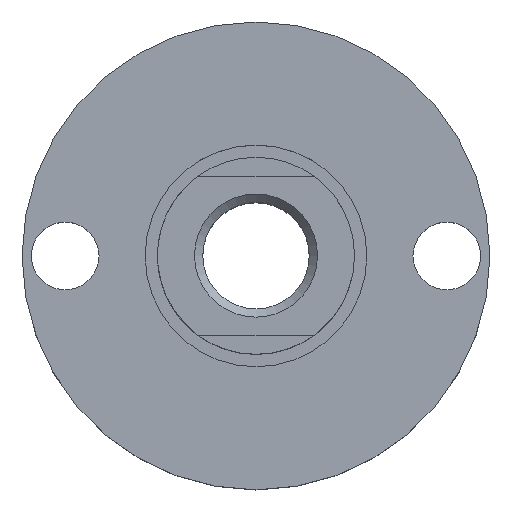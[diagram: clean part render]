
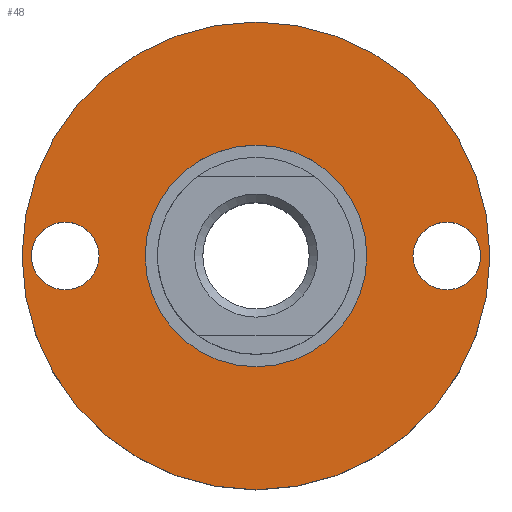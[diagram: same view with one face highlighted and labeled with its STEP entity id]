
A CAD part, top view. The second image highlights one B-rep face of the part: STEP entity #48.
In plain terms, the highlighted planar face has unit normal (0, 0, 1).
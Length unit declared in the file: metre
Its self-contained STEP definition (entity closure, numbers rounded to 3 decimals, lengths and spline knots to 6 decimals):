
#48 = ADVANCED_FACE( '', ( #102, #103, #104, #105 ), #106, .F. );
#102 = FACE_BOUND( '', #173, .T. );
#103 = FACE_BOUND( '', #174, .T. );
#104 = FACE_OUTER_BOUND( '', #175, .T. );
#105 = FACE_BOUND( '', #176, .T. );
#106 = PLANE( '', #177 );
#173 = EDGE_LOOP( '', ( #258 ) );
#174 = EDGE_LOOP( '', ( #259 ) );
#175 = EDGE_LOOP( '', ( #260 ) );
#176 = EDGE_LOOP( '', ( #261 ) );
#177 = AXIS2_PLACEMENT_3D( '', #262, #263, #264 );
#258 = ORIENTED_EDGE( '', *, *, #355, .F. );
#259 = ORIENTED_EDGE( '', *, *, #356, .F. );
#260 = ORIENTED_EDGE( '', *, *, #357, .T. );
#261 = ORIENTED_EDGE( '', *, *, #358, .T. );
#262 = CARTESIAN_POINT( '', ( 0., 0., 0.008 ) );
#263 = DIRECTION( '', ( 0., 0., -1. ) );
#264 = DIRECTION( '', ( 1., 0., 0. ) );
#355 = EDGE_CURVE( '', #405, #405, #406, .T. );
#356 = EDGE_CURVE( '', #407, #407, #408, .T. );
#357 = EDGE_CURVE( '', #409, #409, #410, .T. );
#358 = EDGE_CURVE( '', #411, #411, #412, .F. );
#405 = VERTEX_POINT( '', #474 );
#406 = CIRCLE( '', #475, 0.00275 );
#407 = VERTEX_POINT( '', #476 );
#408 = CIRCLE( '', #477, 0.00275 );
#409 = VERTEX_POINT( '', #478 );
#410 = CIRCLE( '', #479, 0.019 );
#411 = VERTEX_POINT( '', #480 );
#412 = CIRCLE( '', #481, 0.009 );
#474 = CARTESIAN_POINT( '', ( -0.01825, 0., 0.008 ) );
#475 = AXIS2_PLACEMENT_3D( '', #533, #534, #535 );
#476 = CARTESIAN_POINT( '', ( 0.01825, 0., 0.008 ) );
#477 = AXIS2_PLACEMENT_3D( '', #536, #537, #538 );
#478 = CARTESIAN_POINT( '', ( 0.019, 0., 0.008 ) );
#479 = AXIS2_PLACEMENT_3D( '', #539, #540, #541 );
#480 = CARTESIAN_POINT( '', ( 0.009, 0., 0.008 ) );
#481 = AXIS2_PLACEMENT_3D( '', #542, #543, #544 );
#533 = CARTESIAN_POINT( '', ( -0.0155, 0., 0.008 ) );
#534 = DIRECTION( '', ( 0., 0., 1. ) );
#535 = DIRECTION( '', ( -1., 0., 0. ) );
#536 = CARTESIAN_POINT( '', ( 0.0155, 0., 0.008 ) );
#537 = DIRECTION( '', ( 0., 0., 1. ) );
#538 = DIRECTION( '', ( 1., 0., 0. ) );
#539 = CARTESIAN_POINT( '', ( 0., 0., 0.008 ) );
#540 = DIRECTION( '', ( 0., 0., 1. ) );
#541 = DIRECTION( '', ( 1., 0., 0. ) );
#542 = CARTESIAN_POINT( '', ( 0., 0., 0.008 ) );
#543 = DIRECTION( '', ( 0., 0., 1. ) );
#544 = DIRECTION( '', ( 1., 0., 0. ) );
